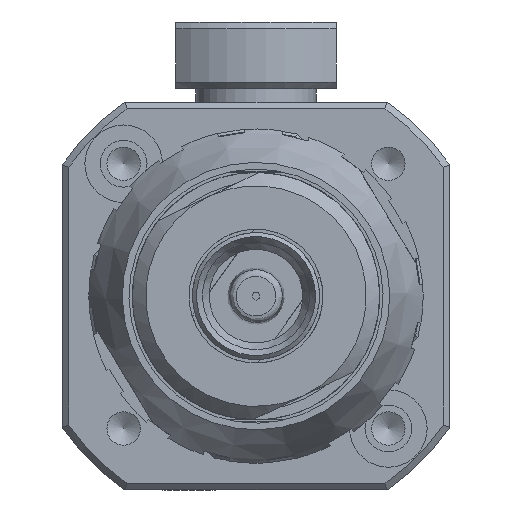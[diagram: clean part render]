
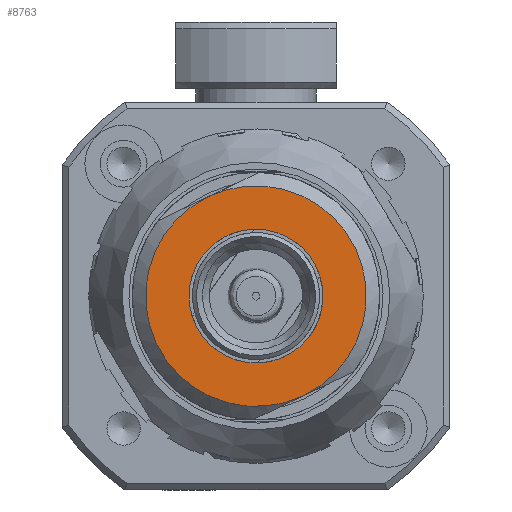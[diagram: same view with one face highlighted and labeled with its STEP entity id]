
A CAD part, front view. The second image highlights one B-rep face of the part: STEP entity #8763.
In plain terms, the highlighted planar face has unit normal (0, -1, 0).
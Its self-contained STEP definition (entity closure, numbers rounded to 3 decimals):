
#2686 = PLANE ( 'NONE',  #46320 ) ;
#3999 = AXIS2_PLACEMENT_3D ( 'NONE', #33921, #4224, #33385 ) ;
#4224 = DIRECTION ( 'NONE',  ( 0., 1., 0. ) ) ;
#6148 = DIRECTION ( 'NONE',  ( -0.429, 0., 0.903 ) ) ;
#7191 = VERTEX_POINT ( 'NONE', #28269 ) ;
#8763 = ADVANCED_FACE ( 'NONE', ( #49794, #40960 ), #2686, .F. ) ;
#11008 = DIRECTION ( 'NONE',  ( 0., 1., 0. ) ) ;
#11125 = CARTESIAN_POINT ( 'NONE',  ( -7.444, -70.732, 132.7 ) ) ;
#12604 = CARTESIAN_POINT ( 'NONE',  ( -7.444, -70.732, 132.7 ) ) ;
#17184 = CIRCLE ( 'NONE', #48168, 3. ) ;
#17469 = VERTEX_POINT ( 'NONE', #51272 ) ;
#17835 = VERTEX_POINT ( 'NONE', #35348 ) ;
#20831 = CIRCLE ( 'NONE', #3999, 8.25 ) ;
#23776 = DIRECTION ( 'NONE',  ( -0.429, 0., 0.903 ) ) ;
#24412 = AXIS2_PLACEMENT_3D ( 'NONE', #11125, #48287, #6148 ) ;
#28269 = CARTESIAN_POINT ( 'NONE',  ( -10.986, -70.732, 140.151 ) ) ;
#29547 = DIRECTION ( 'NONE',  ( 0., -1., 0. ) ) ;
#32113 = CARTESIAN_POINT ( 'NONE',  ( -4.735, -70.732, 133.988 ) ) ;
#32187 = ORIENTED_EDGE ( 'NONE', *, *, #39183, .F. ) ;
#32384 = CIRCLE ( 'NONE', #24412, 8.25 ) ;
#33385 = DIRECTION ( 'NONE',  ( -0.429, 0., 0.903 ) ) ;
#33921 = CARTESIAN_POINT ( 'NONE',  ( -7.444, -70.732, 132.7 ) ) ;
#35348 = CARTESIAN_POINT ( 'NONE',  ( -3.903, -70.732, 125.249 ) ) ;
#38131 = DIRECTION ( 'NONE',  ( 0.429, 0., -0.903 ) ) ;
#38991 = EDGE_LOOP ( 'NONE', ( #49760, #53607 ) ) ;
#39183 = EDGE_CURVE ( 'NONE', #17469, #17469, #17184, .T. ) ;
#40112 = EDGE_CURVE ( 'NONE', #7191, #17835, #20831, .T. ) ;
#40371 = EDGE_CURVE ( 'NONE', #17835, #7191, #32384, .T. ) ;
#40960 = FACE_BOUND ( 'NONE', #52327, .T. ) ;
#46320 = AXIS2_PLACEMENT_3D ( 'NONE', #32113, #11008, #23776 ) ;
#48168 = AXIS2_PLACEMENT_3D ( 'NONE', #12604, #29547, #38131 ) ;
#48287 = DIRECTION ( 'NONE',  ( 0., 1., 0. ) ) ;
#49760 = ORIENTED_EDGE ( 'NONE', *, *, #40371, .F. ) ;
#49794 = FACE_OUTER_BOUND ( 'NONE', #38991, .T. ) ;
#51272 = CARTESIAN_POINT ( 'NONE',  ( -6.157, -70.732, 129.99 ) ) ;
#52327 = EDGE_LOOP ( 'NONE', ( #32187 ) ) ;
#53607 = ORIENTED_EDGE ( 'NONE', *, *, #40112, .F. ) ;
